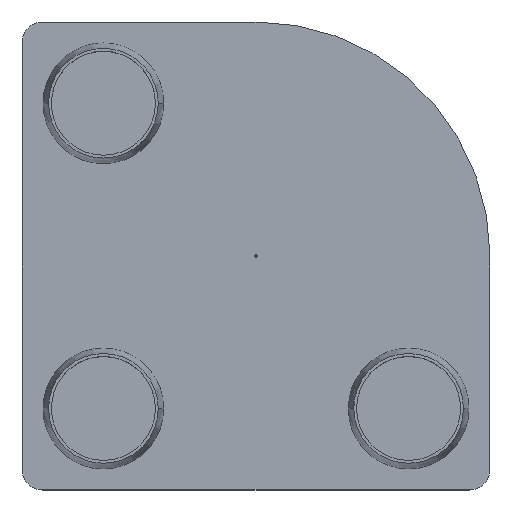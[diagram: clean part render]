
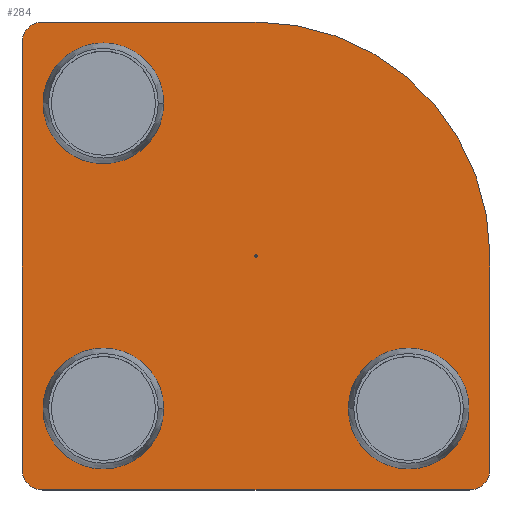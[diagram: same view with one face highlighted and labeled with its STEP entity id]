
A CAD part, top view. The second image highlights one B-rep face of the part: STEP entity #284.
In plain terms, the highlighted planar face has unit normal (0, 0, 1).
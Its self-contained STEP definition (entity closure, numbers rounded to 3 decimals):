
#1 = AXIS2_PLACEMENT_3D ( 'NONE', #525, #244, #983 ) ;
#8 = VERTEX_POINT ( 'NONE', #1120 ) ;
#11 = AXIS2_PLACEMENT_3D ( 'NONE', #657, #457, #939 ) ;
#15 = FACE_BOUND ( 'NONE', #744, .T. ) ;
#21 = ORIENTED_EDGE ( 'NONE', *, *, #207, .T. ) ;
#37 = EDGE_CURVE ( 'NONE', #752, #1010, #801, .T. ) ;
#42 = EDGE_CURVE ( 'NONE', #8, #8, #341, .T. ) ;
#49 = LINE ( 'NONE', #226, #235 ) ;
#58 = LINE ( 'NONE', #146, #317 ) ;
#63 = VERTEX_POINT ( 'NONE', #246 ) ;
#70 = CARTESIAN_POINT ( 'NONE',  ( 0., 0., 2.5 ) ) ;
#85 = EDGE_LOOP ( 'NONE', ( #92 ) ) ;
#88 = FACE_OUTER_BOUND ( 'NONE', #335, .T. ) ;
#92 = ORIENTED_EDGE ( 'NONE', *, *, #42, .F. ) ;
#93 = CARTESIAN_POINT ( 'NONE',  ( 20.475, -14.675, 2.5 ) ) ;
#106 = DIRECTION ( 'NONE',  ( 0., 0., 1. ) ) ;
#117 = ORIENTED_EDGE ( 'NONE', *, *, #397, .F. ) ;
#126 = VERTEX_POINT ( 'NONE', #739 ) ;
#132 = ORIENTED_EDGE ( 'NONE', *, *, #37, .F. ) ;
#136 = CARTESIAN_POINT ( 'NONE',  ( 22.5, -20.5, 2.5 ) ) ;
#146 = CARTESIAN_POINT ( 'NONE',  ( -22.5, -22.5, 2.5 ) ) ;
#149 = EDGE_LOOP ( 'NONE', ( #302, #21 ) ) ;
#159 = DIRECTION ( 'NONE',  ( 0., 0., -1. ) ) ;
#166 = CARTESIAN_POINT ( 'NONE',  ( -20.475, 14.675, 2.5 ) ) ;
#192 = DIRECTION ( 'NONE',  ( 1., 0., 0. ) ) ;
#203 = CARTESIAN_POINT ( 'NONE',  ( 8.875, -14.675, 2.5 ) ) ;
#207 = EDGE_CURVE ( 'NONE', #1143, #296, #753, .T. ) ;
#214 = CIRCLE ( 'NONE', #313, 2. ) ;
#226 = CARTESIAN_POINT ( 'NONE',  ( 0., -22.5, 2.5 ) ) ;
#235 = VECTOR ( 'NONE', #1174, 1000. ) ;
#244 = DIRECTION ( 'NONE',  ( 0., 0., -1. ) ) ;
#246 = CARTESIAN_POINT ( 'NONE',  ( -22.5, -20.5, 2.5 ) ) ;
#263 = AXIS2_PLACEMENT_3D ( 'NONE', #667, #1044, #388 ) ;
#265 = LINE ( 'NONE', #343, #815 ) ;
#284 = ADVANCED_FACE ( 'NONE', ( #746, #88, #15, #383, #952 ), #297, .T. ) ;
#296 = VERTEX_POINT ( 'NONE', #203 ) ;
#297 = PLANE ( 'NONE',  #263 ) ;
#302 = ORIENTED_EDGE ( 'NONE', *, *, #1008, .T. ) ;
#312 = VERTEX_POINT ( 'NONE', #136 ) ;
#313 = AXIS2_PLACEMENT_3D ( 'NONE', #479, #1139, #560 ) ;
#317 = VECTOR ( 'NONE', #1178, 1000. ) ;
#329 = DIRECTION ( 'NONE',  ( -1., 0., 0. ) ) ;
#335 = EDGE_LOOP ( 'NONE', ( #765, #132, #805, #979, #1016, #117, #1035, #478 ) ) ;
#341 = CIRCLE ( 'NONE', #1029, 0.1 ) ;
#343 = CARTESIAN_POINT ( 'NONE',  ( 22.5, 0., 2.5 ) ) ;
#364 = CARTESIAN_POINT ( 'NONE',  ( 20.5, -20.5, 2.5 ) ) ;
#369 = CARTESIAN_POINT ( 'NONE',  ( -14.675, 14.675, 2.5 ) ) ;
#383 = FACE_BOUND ( 'NONE', #1203, .T. ) ;
#384 = AXIS2_PLACEMENT_3D ( 'NONE', #749, #106, #192 ) ;
#386 = ORIENTED_EDGE ( 'NONE', *, *, #793, .T. ) ;
#388 = DIRECTION ( 'NONE',  ( 1., 0., 0. ) ) ;
#389 = DIRECTION ( 'NONE',  ( 0., 0., -1. ) ) ;
#394 = CIRCLE ( 'NONE', #630, 5.8 ) ;
#397 = EDGE_CURVE ( 'NONE', #573, #1199, #49, .T. ) ;
#402 = EDGE_CURVE ( 'NONE', #1072, #489, #1022, .T. ) ;
#410 = CIRCLE ( 'NONE', #491, 5.8 ) ;
#417 = VERTEX_POINT ( 'NONE', #505 ) ;
#441 = CARTESIAN_POINT ( 'NONE',  ( 0., 22.5, 2.5 ) ) ;
#443 = DIRECTION ( 'NONE',  ( 1., 0., 0. ) ) ;
#457 = DIRECTION ( 'NONE',  ( 0., 0., -1. ) ) ;
#463 = EDGE_CURVE ( 'NONE', #63, #735, #58, .T. ) ;
#467 = CIRCLE ( 'NONE', #663, 2. ) ;
#478 = ORIENTED_EDGE ( 'NONE', *, *, #1074, .F. ) ;
#479 = CARTESIAN_POINT ( 'NONE',  ( -20.5, -20.5, 2.5 ) ) ;
#489 = VERTEX_POINT ( 'NONE', #902 ) ;
#491 = AXIS2_PLACEMENT_3D ( 'NONE', #839, #860, #945 ) ;
#503 = EDGE_CURVE ( 'NONE', #1010, #126, #725, .T. ) ;
#505 = CARTESIAN_POINT ( 'NONE',  ( -20.475, -14.675, 2.5 ) ) ;
#525 = CARTESIAN_POINT ( 'NONE',  ( 14.675, -14.675, 2.5 ) ) ;
#527 = DIRECTION ( 'NONE',  ( 1., 0., 0. ) ) ;
#546 = AXIS2_PLACEMENT_3D ( 'NONE', #70, #159, #706 ) ;
#560 = DIRECTION ( 'NONE',  ( 1., 0., 0. ) ) ;
#573 = VERTEX_POINT ( 'NONE', #1018 ) ;
#574 = CIRCLE ( 'NONE', #928, 5.8 ) ;
#583 = DIRECTION ( 'NONE',  ( 0., 0., -1. ) ) ;
#596 = CARTESIAN_POINT ( 'NONE',  ( -14.675, 14.675, 2.5 ) ) ;
#618 = EDGE_CURVE ( 'NONE', #573, #312, #467, .T. ) ;
#621 = ORIENTED_EDGE ( 'NONE', *, *, #864, .T. ) ;
#622 = CARTESIAN_POINT ( 'NONE',  ( -22.5, 22.5, 2.5 ) ) ;
#630 = AXIS2_PLACEMENT_3D ( 'NONE', #696, #968, #1060 ) ;
#655 = CARTESIAN_POINT ( 'NONE',  ( -20.5, -22.5, 2.5 ) ) ;
#657 = CARTESIAN_POINT ( 'NONE',  ( 14.675, -14.675, 2.5 ) ) ;
#663 = AXIS2_PLACEMENT_3D ( 'NONE', #364, #1195, #823 ) ;
#667 = CARTESIAN_POINT ( 'NONE',  ( -1.55, -1.55, 2.5 ) ) ;
#696 = CARTESIAN_POINT ( 'NONE',  ( -14.675, -14.675, 2.5 ) ) ;
#706 = DIRECTION ( 'NONE',  ( 1., 0., 0. ) ) ;
#725 = CIRCLE ( 'NONE', #546, 22.5 ) ;
#735 = VERTEX_POINT ( 'NONE', #913 ) ;
#739 = CARTESIAN_POINT ( 'NONE',  ( 22.5, 0., 2.5 ) ) ;
#744 = EDGE_LOOP ( 'NONE', ( #1013, #621 ) ) ;
#746 = FACE_BOUND ( 'NONE', #85, .T. ) ;
#749 = CARTESIAN_POINT ( 'NONE',  ( -20.5, 20.5, 2.5 ) ) ;
#752 = VERTEX_POINT ( 'NONE', #1040 ) ;
#753 = CIRCLE ( 'NONE', #11, 5.8 ) ;
#760 = CARTESIAN_POINT ( 'NONE',  ( -8.875, -14.675, 2.5 ) ) ;
#765 = ORIENTED_EDGE ( 'NONE', *, *, #503, .F. ) ;
#770 = DIRECTION ( 'NONE',  ( -1., 0., 0. ) ) ;
#793 = EDGE_CURVE ( 'NONE', #1155, #417, #410, .T. ) ;
#801 = LINE ( 'NONE', #622, #1187 ) ;
#805 = ORIENTED_EDGE ( 'NONE', *, *, #1163, .T. ) ;
#814 = DIRECTION ( 'NONE',  ( 0., 0., 1. ) ) ;
#815 = VECTOR ( 'NONE', #903, 1000. ) ;
#823 = DIRECTION ( 'NONE',  ( 1., 0., 0. ) ) ;
#839 = CARTESIAN_POINT ( 'NONE',  ( -14.675, -14.675, 2.5 ) ) ;
#860 = DIRECTION ( 'NONE',  ( 0., 0., -1. ) ) ;
#864 = EDGE_CURVE ( 'NONE', #489, #1072, #574, .T. ) ;
#885 = EDGE_CURVE ( 'NONE', #417, #1155, #394, .T. ) ;
#902 = CARTESIAN_POINT ( 'NONE',  ( -8.875, 14.675, 2.5 ) ) ;
#903 = DIRECTION ( 'NONE',  ( 0., -1., 0. ) ) ;
#913 = CARTESIAN_POINT ( 'NONE',  ( -22.5, 20.5, 2.5 ) ) ;
#928 = AXIS2_PLACEMENT_3D ( 'NONE', #369, #389, #770 ) ;
#937 = CIRCLE ( 'NONE', #1, 5.8 ) ;
#939 = DIRECTION ( 'NONE',  ( -1., 0., 0. ) ) ;
#945 = DIRECTION ( 'NONE',  ( -1., 0., 0. ) ) ;
#952 = FACE_BOUND ( 'NONE', #149, .T. ) ;
#968 = DIRECTION ( 'NONE',  ( 0., 0., -1. ) ) ;
#979 = ORIENTED_EDGE ( 'NONE', *, *, #463, .F. ) ;
#983 = DIRECTION ( 'NONE',  ( -1., 0., 0. ) ) ;
#1008 = EDGE_CURVE ( 'NONE', #296, #1143, #937, .T. ) ;
#1010 = VERTEX_POINT ( 'NONE', #441 ) ;
#1013 = ORIENTED_EDGE ( 'NONE', *, *, #402, .T. ) ;
#1016 = ORIENTED_EDGE ( 'NONE', *, *, #1161, .T. ) ;
#1018 = CARTESIAN_POINT ( 'NONE',  ( 20.5, -22.5, 2.5 ) ) ;
#1022 = CIRCLE ( 'NONE', #1201, 5.8 ) ;
#1029 = AXIS2_PLACEMENT_3D ( 'NONE', #1100, #814, #527 ) ;
#1035 = ORIENTED_EDGE ( 'NONE', *, *, #618, .T. ) ;
#1040 = CARTESIAN_POINT ( 'NONE',  ( -20.5, 22.5, 2.5 ) ) ;
#1044 = DIRECTION ( 'NONE',  ( 0., 0., 1. ) ) ;
#1060 = DIRECTION ( 'NONE',  ( -1., 0., 0. ) ) ;
#1072 = VERTEX_POINT ( 'NONE', #166 ) ;
#1074 = EDGE_CURVE ( 'NONE', #126, #312, #265, .T. ) ;
#1100 = CARTESIAN_POINT ( 'NONE',  ( 0., 0., 2.5 ) ) ;
#1120 = CARTESIAN_POINT ( 'NONE',  ( 0.1, 0., 2.5 ) ) ;
#1139 = DIRECTION ( 'NONE',  ( 0., 0., 1. ) ) ;
#1140 = ORIENTED_EDGE ( 'NONE', *, *, #885, .T. ) ;
#1143 = VERTEX_POINT ( 'NONE', #93 ) ;
#1155 = VERTEX_POINT ( 'NONE', #760 ) ;
#1157 = CIRCLE ( 'NONE', #384, 2. ) ;
#1161 = EDGE_CURVE ( 'NONE', #63, #1199, #214, .T. ) ;
#1163 = EDGE_CURVE ( 'NONE', #752, #735, #1157, .T. ) ;
#1174 = DIRECTION ( 'NONE',  ( -1., 0., 0. ) ) ;
#1178 = DIRECTION ( 'NONE',  ( 0., 1., 0. ) ) ;
#1187 = VECTOR ( 'NONE', #443, 1000. ) ;
#1195 = DIRECTION ( 'NONE',  ( 0., 0., 1. ) ) ;
#1199 = VERTEX_POINT ( 'NONE', #655 ) ;
#1201 = AXIS2_PLACEMENT_3D ( 'NONE', #596, #583, #329 ) ;
#1203 = EDGE_LOOP ( 'NONE', ( #1140, #386 ) ) ;
